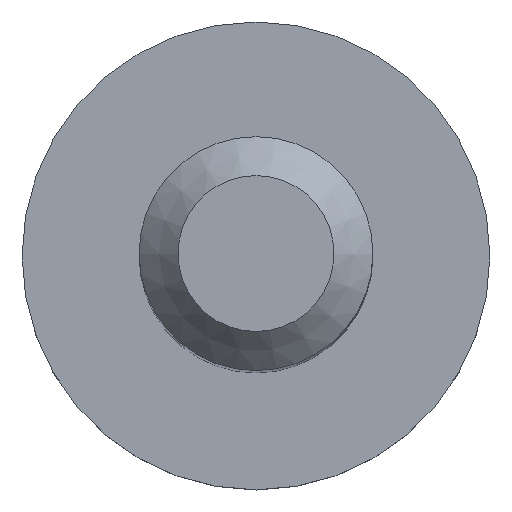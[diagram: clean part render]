
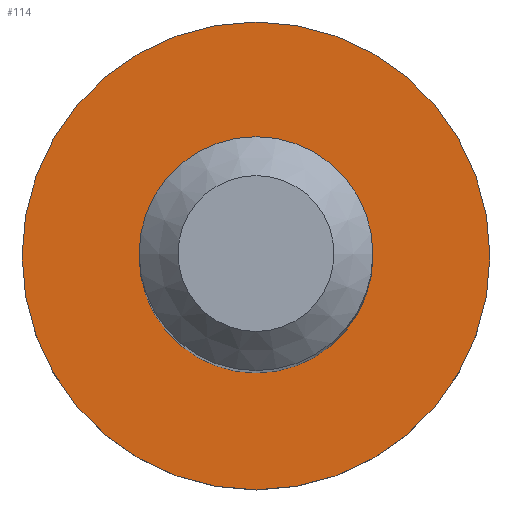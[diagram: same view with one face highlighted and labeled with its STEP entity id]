
A CAD part, top view. The second image highlights one B-rep face of the part: STEP entity #114.
In plain terms, the highlighted planar face has unit normal (0, 0, 1).
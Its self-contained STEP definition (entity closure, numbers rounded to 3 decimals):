
#15=FACE_BOUND('',#35,.T.);
#18=PLANE('',#151);
#27=FACE_OUTER_BOUND('',#34,.T.);
#34=EDGE_LOOP('',(#102,#103));
#35=EDGE_LOOP('',(#104,#105));
#47=CIRCLE('',#140,1.5);
#48=CIRCLE('',#141,1.5);
#52=CIRCLE('',#148,3.);
#53=CIRCLE('',#149,3.);
#57=VERTEX_POINT('',#202);
#58=VERTEX_POINT('',#204);
#62=VERTEX_POINT('',#217);
#63=VERTEX_POINT('',#218);
#69=EDGE_CURVE('',#57,#58,#47,.T.);
#70=EDGE_CURVE('',#58,#57,#48,.T.);
#75=EDGE_CURVE('',#62,#63,#52,.T.);
#76=EDGE_CURVE('',#63,#62,#53,.T.);
#102=ORIENTED_EDGE('',*,*,#75,.T.);
#103=ORIENTED_EDGE('',*,*,#76,.T.);
#104=ORIENTED_EDGE('',*,*,#70,.F.);
#105=ORIENTED_EDGE('',*,*,#69,.F.);
#114=ADVANCED_FACE('',(#27,#15),#18,.T.);
#140=AXIS2_PLACEMENT_3D('',#205,#166,#167);
#141=AXIS2_PLACEMENT_3D('',#206,#168,#169);
#148=AXIS2_PLACEMENT_3D('',#219,#183,#184);
#149=AXIS2_PLACEMENT_3D('',#220,#185,#186);
#151=AXIS2_PLACEMENT_3D('',#223,#190,#191);
#166=DIRECTION('center_axis',(0.,0.,1.));
#167=DIRECTION('ref_axis',(1.,0.,0.));
#168=DIRECTION('center_axis',(0.,0.,1.));
#169=DIRECTION('ref_axis',(1.,0.,0.));
#183=DIRECTION('center_axis',(0.,0.,1.));
#184=DIRECTION('ref_axis',(1.,0.,0.));
#185=DIRECTION('center_axis',(0.,0.,1.));
#186=DIRECTION('ref_axis',(1.,0.,0.));
#190=DIRECTION('center_axis',(0.,0.,1.));
#191=DIRECTION('ref_axis',(1.,0.,0.));
#202=CARTESIAN_POINT('',(-1.5,0.,1.5));
#204=CARTESIAN_POINT('',(1.5,0.,1.5));
#205=CARTESIAN_POINT('Origin',(0.,0.,1.5));
#206=CARTESIAN_POINT('Origin',(0.,0.,1.5));
#217=CARTESIAN_POINT('',(3.,0.,1.5));
#218=CARTESIAN_POINT('',(-3.,0.,1.5));
#219=CARTESIAN_POINT('Origin',(0.,0.,1.5));
#220=CARTESIAN_POINT('Origin',(0.,0.,1.5));
#223=CARTESIAN_POINT('Origin',(0.,0.,1.5));
